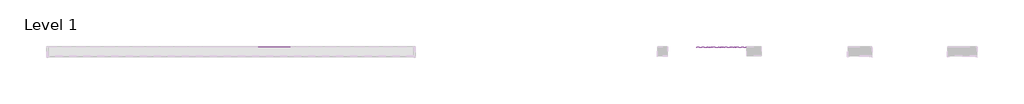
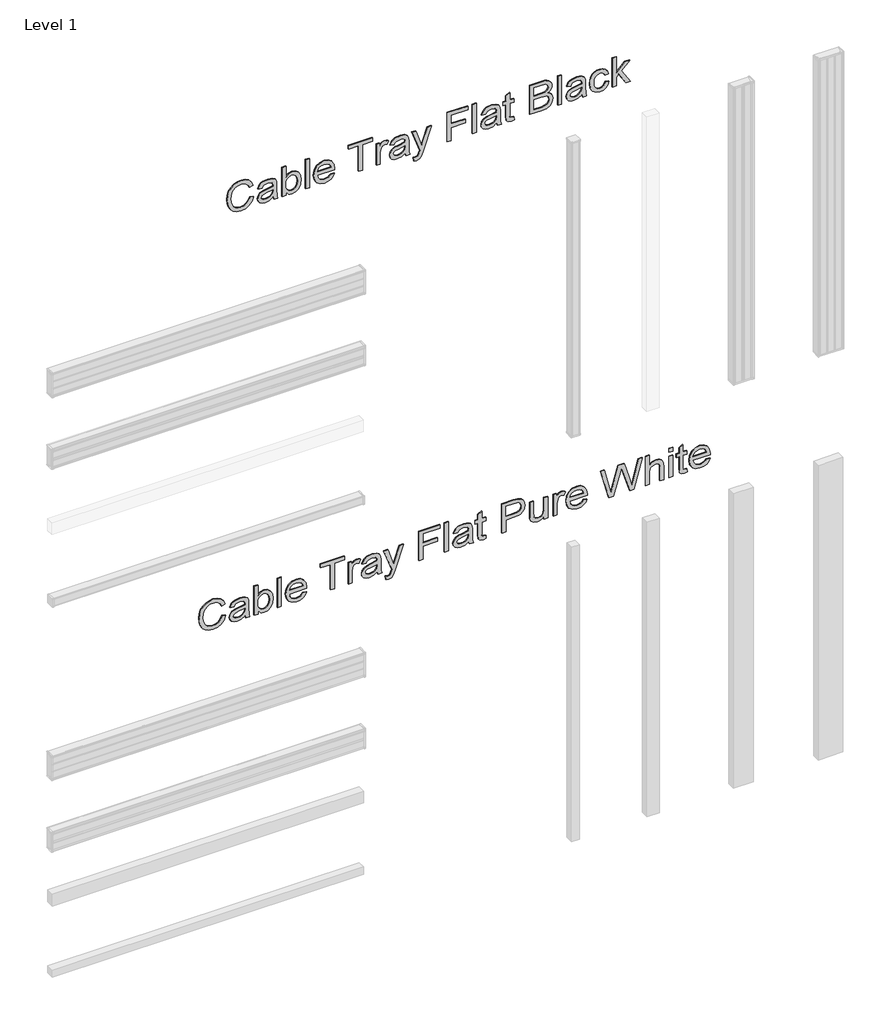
# One storey, part 2 of 2: 2 proxies.
"""IFC4 building model written with IfcOpenShell, lengths in millimetres."""

from ifc_helpers import new_model, si_unit, frame, origin, place, context, project, spatial, polyline, outline, extrude, element, save

model = new_model("IFC4")

# Units and contexts
model_context = context("Model", 3, world=origin())
ifc_project = project(units=[si_unit("LENGTHUNIT", "METRE", prefix="MILLI")], contexts=[model_context])

# Site, building, storey
site = spatial("IfcSite", under=ifc_project)
building = spatial("IfcBuilding", under=site)
storey = spatial("IfcBuildingStorey", under=building, Name="Level 1", Elevation=4000.0)

# Proxies
placement = place(None, origin())
element("IfcBuildingElementProxy", 1, Name="200mm Arial", ObjectType="200mm Arial", at=placement, inside=storey, context=model_context, shape_type="SweptSolid", body=[
    extrude(outline(polyline([(8310.4407483, -13910.5435834), (8289.3590175, -13918.5063238), (8274.1907483, -13931.4330065), (8265.0320944, -13948.5544007), (8261.9792098, -13969.1012757), (8264.2207964, -13986.7274776), (8270.945556, -14003.0676219), (8282.2015656, -14016.6974296), (8298.0369021, -14026.1926219), (8317.7003637, -14031.7635353), (8340.4407483, -14033.6205065), (8359.0104598, -14032.0519969), (8377.0272868, -14027.346468), (8392.9647868, -14018.7707469), (8405.2965175, -14005.5916603), (8413.1931521, -13988.2238719), (8415.8253637, -13967.082045), (8413.4515656, -13948.7406988), (8406.3301714, -13933.8128142), (8394.0164694, -13922.1541603), (8376.0657483, -13913.6205065), (8381.9311329, -13889.0051219), (8406.6426714, -13899.8765161), (8425.1042098, -13916.8176219), (8436.6066137, -13939.1313238), (8440.4407483, -13966.1205065), (8437.4780079, -13990.8560834), (8428.5897868, -14013.4281988), (8413.992431, -14032.4606507), (8393.9022868, -14046.5772373), (8369.1066137, -14055.3212276), (8340.3926714, -14058.2358911), (8313.1691137, -14055.6577661), (8287.7484406, -14047.9233911), (8266.1258444, -14035.2551219), (8250.2965175, -14017.8753142), (8240.5969983, -13995.2010353), (8237.3638252, -13966.6493526), (8241.6366618, -13938.5243526), (8254.4551714, -13915.1108911), (8275.4107002, -13897.2863719), (8304.0945944, -13885.9281988), (8310.4407483, -13910.5435834)])), frame((0.0, 2566.5081828, 0.0), z_axis=(0.0, 1.0, 0.0), x_axis=(0.0, 0.0, 1.0)), (0.0, 0.0, 1.0), 5.0),
    extrude(outline(polyline([(8258.9022868, -13762.8512757), (8240.4407483, -13756.6974296), (8240.4407483, -13732.082045), (8261.1378637, -13736.9858911), (8303.9022868, -13738.2358911), (8334.5272868, -13738.2358911), (8356.0657483, -13739.4378142), (8372.7724791, -13746.9858911), (8383.758056, -13763.8368526), (8388.133056, -13793.6685834), (8383.1811329, -13826.144545), (8377.1835368, -13838.5123334), (8369.0945944, -13847.5868526), (8345.0561329, -13858.2358911), (8341.9792098, -13833.6205065), (8352.2135848, -13828.7286796), (8358.7820944, -13821.7455065), (8363.5176714, -13796.8416603), (8361.7388252, -13781.0003142), (8356.4022868, -13769.6301219), (8349.2147868, -13764.5459873), (8338.2292098, -13762.8512757), (8332.7484406, -13762.9955065), (8324.2869021, -13805.6878142), (8320.5849791, -13826.9858911), (8312.508056, -13844.221468), (8298.3734406, -13856.6012757), (8278.9022868, -13861.3128142), (8262.351806, -13858.1938238), (8249.0465175, -13848.8368526), (8240.2844983, -13833.6625738), (8237.3638252, -13813.0916603), (8242.2195944, -13786.721468), (8258.9022868, -13762.8512757)]), holes=[polyline([(8308.133056, -13762.8512757), (8301.1619021, -13762.9955065), (8282.1234406, -13766.8897373), (8267.8686329, -13782.9474296), (8263.4515656, -13794.6301219), (8261.9792098, -13807.8512757), (8263.3133444, -13820.3212276), (8267.3157483, -13829.3656988), (8273.3133444, -13834.8644969), (8280.633056, -13836.6974296), (8290.1042098, -13833.332045), (8296.5945944, -13823.7406988), (8300.5849791, -13802.5628142), (8308.133056, -13762.8512757)])]), frame((0.0, 2566.5081828, 0.0), z_axis=(0.0, 1.0, 0.0), x_axis=(0.0, 0.0, 1.0)), (0.0, 0.0, 1.0), 5.0),
    extrude(outline(polyline([(8240.4407483, -13679.7743526), (8263.4695944, -13679.7743526), (8243.8902675, -13663.1517565), (8238.9954358, -13652.8662998), (8237.3638252, -13641.2647373), (8242.4239214, -13618.3260353), (8257.6042098, -13598.9330065), (8282.0513252, -13585.7178623), (8314.9119021, -13581.3128142), (8344.2628637, -13585.5676219), (8367.7003637, -13597.3224296), (8382.7724791, -13616.457045), (8388.133056, -13641.1205065), (8382.1835368, -13662.5387757), (8364.3349791, -13679.7743526), (8437.3638252, -13679.7743526), (8437.3638252, -13704.3897373), (8240.4407483, -13704.3897373), (8240.4407483, -13679.7743526)]), holes=[polyline([(8313.758056, -13679.7743526), (8335.0921906, -13676.9979103), (8350.7292098, -13668.6685834), (8360.320556, -13656.5291603), (8363.5176714, -13642.3224296), (8360.4287291, -13628.3380546), (8351.1619021, -13616.5772373), (8335.4167098, -13608.5904584), (8312.8926714, -13605.9281988), (8290.6931521, -13608.7046411), (8274.7676714, -13617.033968), (8265.1763252, -13629.1733911), (8261.9792098, -13643.3801219), (8266.3181521, -13660.1469488), (8279.3349791, -13673.0435834), (8293.2292098, -13678.0916603), (8313.758056, -13679.7743526)])]), frame((0.0, 2566.5081828, 0.0), z_axis=(0.0, 1.0, 0.0), x_axis=(0.0, 0.0, 1.0)), (0.0, 0.0, 1.0), 5.0),
    extrude(outline(polyline([(-13529.0051219, 2566.5081828), (-13553.6205065, 2566.5081828), (-13553.6205065, 2571.5081828), (-13529.0051219, 2571.5081828), (-13529.0051219, 2566.5081828)])), frame((0.0, 0.0, 8240.4407483), z_axis=(0.0, 0.0, 1.0), x_axis=(1.0, 0.0, 0.0)), (0.0, 0.0, 1.0), 196.9230769),
    extrude(outline(polyline([(8283.5176714, -13390.832045), (8273.7941137, -13397.7310834), (8267.1234406, -13406.6974296), (8261.9792098, -13430.832045), (8264.7556521, -13448.25392), (8273.0849791, -13462.5387757), (8286.6306521, -13472.4366123), (8305.0561329, -13476.6974296), (8305.0561329, -13366.0724296), (8311.6907483, -13365.9281988), (8343.9623829, -13370.59767), (8368.0849791, -13384.6060834), (8383.1210368, -13405.9702661), (8388.133056, -13432.707045), (8383.1090175, -13460.3031988), (8368.0369021, -13482.2262757), (8343.8662291, -13496.5411796), (8311.5465175, -13501.3128142), (8280.2784887, -13496.5892565), (8256.8590175, -13482.4185834), (8242.2376233, -13460.1950257), (8237.3638252, -13431.3128142), (8240.1883444, -13408.0135353), (8248.6619021, -13389.269545), (8262.2556521, -13375.393343), (8280.4407483, -13366.6974296), (8283.5176714, -13390.832045)]), holes=[polyline([(8329.6715175, -13476.6974296), (8343.5477194, -13472.6529584), (8354.3109406, -13463.1156988), (8361.2159887, -13449.3957469), (8363.5176714, -13432.8031988), (8360.633056, -13414.7503142), (8351.9792098, -13400.3993526), (8342.6763252, -13393.8729103), (8329.6715175, -13390.5435834), (8329.6715175, -13476.6974296)])]), frame((0.0, 2566.5081828, 0.0), z_axis=(0.0, 1.0, 0.0), x_axis=(0.0, 0.0, 1.0)), (0.0, 0.0, 1.0), 5.0),
    extrude(outline(polyline([(8240.4407483, -13212.082045), (8240.4407483, -13187.4666603), (8412.7484406, -13187.4666603), (8412.7484406, -13122.8512757), (8437.3638252, -13122.8512757), (8437.3638252, -13276.6974296), (8412.7484406, -13276.6974296), (8412.7484406, -13212.082045), (8240.4407483, -13212.082045)])), frame((0.0, 2566.5081828, 0.0), z_axis=(0.0, 1.0, 0.0), x_axis=(0.0, 0.0, 1.0)), (0.0, 0.0, 1.0), 5.0),
    extrude(outline(polyline([(8240.4407483, -13098.2358911), (8240.4407483, -13073.6205065), (8316.4503637, -13073.6205065), (8345.2003637, -13069.6301219), (8358.6619021, -13060.7599296), (8363.5176714, -13046.8416603), (8358.4695944, -13029.533968), (8380.5369021, -13021.3128142), (8386.2340175, -13033.7647373), (8388.133056, -13046.0243526), (8383.3734406, -13061.408968), (8363.6619021, -13076.6974296), (8385.0561329, -13076.6974296), (8385.0561329, -13098.2358911), (8240.4407483, -13098.2358911)])), frame((0.0, 2566.5081828, 0.0), z_axis=(0.0, 1.0, 0.0), x_axis=(0.0, 0.0, 1.0)), (0.0, 0.0, 1.0), 5.0),
    extrude(outline(polyline([(8258.9022868, -12913.6205065), (8240.4407483, -12907.4666603), (8240.4407483, -12882.8512757), (8261.1378637, -12887.7551219), (8303.9022868, -12889.0051219), (8334.5272868, -12889.0051219), (8356.0657483, -12890.207045), (8372.7724791, -12897.7551219), (8383.758056, -12914.6060834), (8388.133056, -12944.4378142), (8383.1811329, -12976.9137757), (8377.1835368, -12989.2815642), (8369.0945944, -12998.3560834), (8345.0561329, -13009.0051219), (8341.9792098, -12984.3897373), (8352.2135848, -12979.4979103), (8358.7820944, -12972.5147373), (8363.5176714, -12947.6108911), (8361.7388252, -12931.769545), (8356.4022868, -12920.3993526), (8349.2147868, -12915.315218), (8338.2292098, -12913.6205065), (8332.7484406, -12913.7647373), (8324.2869021, -12956.457045), (8320.5849791, -12977.7551219), (8312.508056, -12994.9906988), (8298.3734406, -13007.3705065), (8278.9022868, -13012.082045), (8262.351806, -13008.9630546), (8249.0465175, -12999.6060834), (8240.2844983, -12984.4318046), (8237.3638252, -12963.8608911), (8242.2195944, -12937.4906988), (8258.9022868, -12913.6205065)]), holes=[polyline([(8308.133056, -12913.6205065), (8301.1619021, -12913.7647373), (8282.1234406, -12917.658968), (8267.8686329, -12933.7166603), (8263.4515656, -12945.3993526), (8261.9792098, -12958.6205065), (8263.3133444, -12971.0904584), (8267.3157483, -12980.1349296), (8273.3133444, -12985.6337276), (8280.633056, -12987.4666603), (8290.1042098, -12984.1012757), (8296.5945944, -12974.5099296), (8300.5849791, -12953.332045), (8308.133056, -12913.6205065)])]), frame((0.0, 2566.5081828, 0.0), z_axis=(0.0, 1.0, 0.0), x_axis=(0.0, 0.0, 1.0)), (0.0, 0.0, 1.0), 5.0),
    extrude(outline(polyline([(8185.0561329, -12855.158968), (8181.9792098, -12840.1108911), (8187.508056, -12820.9281988), (8204.8638252, -12806.6493526), (8236.9792098, -12793.5724296), (8385.0561329, -12743.2358911), (8385.0561329, -12769.0051219), (8301.0176714, -12797.5147373), (8272.6522868, -12807.1781988), (8304.7676714, -12816.8416603), (8385.0561329, -12844.582045), (8385.0561329, -12870.5435834), (8240.9695944, -12818.2358911), (8235.008056, -12820.158968), (8216.883056, -12826.8897373), (8209.3109406, -12834.0531988), (8206.5945944, -12845.7358911), (8208.758056, -12858.2358911), (8185.0561329, -12855.158968)])), frame((0.0, 2566.5081828, 0.0), z_axis=(0.0, 1.0, 0.0), x_axis=(0.0, 0.0, 1.0)), (0.0, 0.0, 1.0), 5.0),
    extrude(outline(polyline([(8240.4407483, -12642.8512757), (8240.4407483, -12618.2358911), (8329.6715175, -12618.2358911), (8329.6715175, -12525.9281988), (8354.2869021, -12525.9281988), (8354.2869021, -12618.2358911), (8412.7484406, -12618.2358911), (8412.7484406, -12510.5435834), (8437.3638252, -12510.5435834), (8437.3638252, -12642.8512757), (8240.4407483, -12642.8512757)])), frame((0.0, 2566.5081828, 0.0), z_axis=(0.0, 1.0, 0.0), x_axis=(0.0, 0.0, 1.0)), (0.0, 0.0, 1.0), 5.0),
    extrude(outline(polyline([(-12455.158968, 2566.5081828), (-12479.7743526, 2566.5081828), (-12479.7743526, 2571.5081828), (-12455.158968, 2571.5081828), (-12455.158968, 2566.5081828)])), frame((0.0, 0.0, 8240.4407483), z_axis=(0.0, 0.0, 1.0), x_axis=(1.0, 0.0, 0.0)), (0.0, 0.0, 1.0), 196.9230769),
    extrude(outline(polyline([(8258.9022868, -12325.9281988), (8240.4407483, -12319.7743526), (8240.4407483, -12295.158968), (8261.1378637, -12300.0628142), (8303.9022868, -12301.3128142), (8334.5272868, -12301.3128142), (8356.0657483, -12302.5147373), (8372.7724791, -12310.0628142), (8383.758056, -12326.9137757), (8388.133056, -12356.7455065), (8383.1811329, -12389.221468), (8377.1835368, -12401.5892565), (8369.0945944, -12410.6637757), (8345.0561329, -12421.3128142), (8341.9792098, -12396.6974296), (8352.2135848, -12391.8056026), (8358.7820944, -12384.8224296), (8363.5176714, -12359.9185834), (8361.7388252, -12344.0772373), (8356.4022868, -12332.707045), (8349.2147868, -12327.6229103), (8338.2292098, -12325.9281988), (8332.7484406, -12326.0724296), (8324.2869021, -12368.7647373), (8320.5849791, -12390.0628142), (8312.508056, -12407.2983911), (8298.3734406, -12419.6781988), (8278.9022868, -12424.3897373), (8262.351806, -12421.2707469), (8249.0465175, -12411.9137757), (8240.2844983, -12396.7394969), (8237.3638252, -12376.1685834), (8242.2195944, -12349.7983911), (8258.9022868, -12325.9281988)]), holes=[polyline([(8308.133056, -12325.9281988), (8301.1619021, -12326.0724296), (8282.1234406, -12329.9666603), (8267.8686329, -12346.0243526), (8263.4515656, -12357.707045), (8261.9792098, -12370.9281988), (8263.3133444, -12383.3981507), (8267.3157483, -12392.4426219), (8273.3133444, -12397.94142), (8280.633056, -12399.7743526), (8290.1042098, -12396.408968), (8296.5945944, -12386.8176219), (8300.5849791, -12365.6397373), (8308.133056, -12325.9281988)])]), frame((0.0, 2566.5081828, 0.0), z_axis=(0.0, 1.0, 0.0), x_axis=(0.0, 0.0, 1.0)), (0.0, 0.0, 1.0), 5.0),
    extrude(outline(polyline([(8260.9695944, -12215.158968), (8261.9792098, -12225.8801219), (8263.6378637, -12234.269545), (8268.133056, -12238.4762757), (8280.8253637, -12239.7743526), (8360.4407483, -12239.7743526), (8360.4407483, -12215.158968), (8385.0561329, -12215.158968), (8385.0561329, -12239.7743526), (8434.6715175, -12239.7743526), (8420.2003637, -12264.3897373), (8385.0561329, -12264.3897373), (8385.0561329, -12282.8512757), (8360.4407483, -12282.8512757), (8360.4407483, -12264.3897373), (8280.1042098, -12264.3897373), (8252.1715175, -12261.408968), (8241.4503637, -12251.1205065), (8237.3638252, -12230.4955065), (8239.7195944, -12212.082045), (8260.9695944, -12215.158968)])), frame((0.0, 2566.5081828, 0.0), z_axis=(0.0, 1.0, 0.0), x_axis=(0.0, 0.0, 1.0)), (0.0, 0.0, 1.0), 5.0),
    extrude(outline(polyline([(8240.4407483, -12110.5435834), (8240.4407483, -12035.9762757), (8243.8301714, -12004.4137757), (8253.8301714, -11982.9955065), (8272.6763252, -11968.644545), (8299.1426714, -11962.8512757), (8315.6210368, -11964.97267), (8329.7676714, -11971.3368526), (8340.8494021, -11981.643343), (8348.133056, -11995.5916603), (8355.8073348, -11983.9149776), (8365.5609406, -11975.6156988), (8376.7087771, -11970.6577661), (8388.5657483, -11969.0051219), (8401.4503637, -11970.9702661), (8413.758056, -11976.8656988), (8424.2207964, -11986.2286796), (8431.570556, -11998.596468), (8435.9155079, -12014.7322853), (8437.3638252, -12035.3993526), (8437.3638252, -12110.5435834), (8240.4407483, -12110.5435834)]), holes=[polyline([(8357.3638252, -12085.9281988), (8412.7484406, -12085.9281988), (8412.7484406, -12044.3897373), (8410.1763252, -12012.7551219), (8400.6811329, -11998.5724296), (8384.6234406, -11993.6205065), (8368.5897868, -11998.9330065), (8359.4792098, -12014.7262757), (8357.3638252, -12040.9762757), (8357.3638252, -12085.9281988)]), polyline([(8265.0561329, -12085.9281988), (8332.7484406, -12085.9281988), (8332.7484406, -12037.8512757), (8329.4551714, -12007.4426219), (8324.9539694, -11998.3500738), (8318.0369021, -11992.1781988), (8298.9022868, -11987.4666603), (8282.3157483, -11991.4810834), (8271.3782483, -12001.721468), (8266.0176714, -12017.1781988), (8265.0561329, -12035.4474296), (8265.0561329, -12085.9281988)])]), frame((0.0, 2566.5081828, 0.0), z_axis=(0.0, 1.0, 0.0), x_axis=(0.0, 0.0, 1.0)), (0.0, 0.0, 1.0), 5.0),
    extrude(outline(polyline([(-11907.4666603, 2566.5081828), (-11932.082045, 2566.5081828), (-11932.082045, 2571.5081828), (-11907.4666603, 2571.5081828), (-11907.4666603, 2566.5081828)])), frame((0.0, 0.0, 8240.4407483), z_axis=(0.0, 0.0, 1.0), x_axis=(1.0, 0.0, 0.0)), (0.0, 0.0, 1.0), 196.9230769),
    extrude(outline(polyline([(8258.9022868, -11778.2358911), (8240.4407483, -11772.082045), (8240.4407483, -11747.4666603), (8261.1378637, -11752.3705065), (8303.9022868, -11753.6205065), (8334.5272868, -11753.6205065), (8356.0657483, -11754.8224296), (8372.7724791, -11762.3705065), (8383.758056, -11779.221468), (8388.133056, -11809.0531988), (8383.1811329, -11841.5291603), (8377.1835368, -11853.8969488), (8369.0945944, -11862.971468), (8345.0561329, -11873.6205065), (8341.9792098, -11849.0051219), (8352.2135848, -11844.113295), (8358.7820944, -11837.1301219), (8363.5176714, -11812.2262757), (8361.7388252, -11796.3849296), (8356.4022868, -11785.0147373), (8349.2147868, -11779.9306026), (8338.2292098, -11778.2358911), (8332.7484406, -11778.3801219), (8324.2869021, -11821.0724296), (8320.5849791, -11842.3705065), (8312.508056, -11859.6060834), (8298.3734406, -11871.9858911), (8278.9022868, -11876.6974296), (8262.351806, -11873.5784392), (8249.0465175, -11864.221468), (8240.2844983, -11849.0471892), (8237.3638252, -11828.4762757), (8242.2195944, -11802.1060834), (8258.9022868, -11778.2358911)]), holes=[polyline([(8308.133056, -11778.2358911), (8301.1619021, -11778.3801219), (8282.1234406, -11782.2743526), (8267.8686329, -11798.332045), (8263.4515656, -11810.0147373), (8261.9792098, -11823.2358911), (8263.3133444, -11835.705843), (8267.3157483, -11844.7503142), (8273.3133444, -11850.2491123), (8280.633056, -11852.082045), (8290.1042098, -11848.7166603), (8296.5945944, -11839.1253142), (8300.5849791, -11817.9474296), (8308.133056, -11778.2358911)])]), frame((0.0, 2566.5081828, 0.0), z_axis=(0.0, 1.0, 0.0), x_axis=(0.0, 0.0, 1.0)), (0.0, 0.0, 1.0), 5.0),
    extrude(outline(polyline([(8292.7484406, -11627.4666603), (8279.1066137, -11631.6673815), (8269.5272868, -11639.269545), (8263.8662291, -11649.7202661), (8261.9792098, -11662.4666603), (8265.0020464, -11678.1697853), (8274.070556, -11690.5676219), (8289.8217579, -11698.6265161), (8312.8926714, -11701.3128142), (8335.6570944, -11698.56642), (8351.3542098, -11690.3272373), (8360.476806, -11677.7010353), (8363.5176714, -11661.7935834), (8361.9732002, -11651.018343), (8357.3397868, -11641.9618526), (8349.6414694, -11635.0087276), (8338.9022868, -11630.5435834), (8341.9792098, -11605.9281988), (8361.570556, -11612.62892), (8376.1138252, -11624.5580065), (8385.1282483, -11641.1866123), (8388.133056, -11661.9858911), (8385.945556, -11679.3957469), (8379.383056, -11695.471468), (8368.4395464, -11708.908968), (8353.1090175, -11718.4041603), (8334.1246425, -11724.0471892), (8312.2195944, -11725.9281988), (8280.2664694, -11721.5231507), (8256.7147868, -11708.3080065), (8242.2015656, -11687.8332469), (8237.3638252, -11661.6493526), (8240.8313733, -11640.3272373), (8251.2340175, -11622.6108911), (8267.7784887, -11609.7142565), (8289.6715175, -11602.8512757), (8292.7484406, -11627.4666603)])), frame((0.0, 2566.5081828, 0.0), z_axis=(0.0, 1.0, 0.0), x_axis=(0.0, 0.0, 1.0)), (0.0, 0.0, 1.0), 5.0),
    extrude(outline(polyline([(8240.4407483, -11581.3128142), (8240.4407483, -11556.6974296), (8298.5176714, -11556.6974296), (8313.758056, -11540.9762757), (8240.4407483, -11493.1397373), (8240.4407483, -11464.3897373), (8330.8734406, -11523.332045), (8385.0561329, -11467.4666603), (8385.0561329, -11501.5051219), (8331.5465175, -11556.6974296), (8437.3638252, -11556.6974296), (8437.3638252, -11581.3128142), (8240.4407483, -11581.3128142)])), frame((0.0, 2566.5081828, 0.0), z_axis=(0.0, 1.0, 0.0), x_axis=(0.0, 0.0, 1.0)), (0.0, 0.0, 1.0), 5.0),
])
element("IfcBuildingElementProxy", 2, Name="200mm Arial", ObjectType="200mm Arial", at=placement, inside=storey, context=model_context, shape_type="SweptSolid", body=[
    extrude(outline(polyline([(5530.4407483, -14090.5435834), (5509.3590175, -14098.5063238), (5494.1907483, -14111.4330065), (5485.0320944, -14128.5544007), (5481.9792098, -14149.1012757), (5484.2207964, -14166.7274776), (5490.945556, -14183.0676219), (5502.2015656, -14196.6974296), (5518.0369021, -14206.1926219), (5537.7003637, -14211.7635353), (5560.4407483, -14213.6205065), (5579.0104598, -14212.0519969), (5597.0272868, -14207.346468), (5612.9647868, -14198.7707469), (5625.2965175, -14185.5916603), (5633.1931521, -14168.2238719), (5635.8253637, -14147.082045), (5633.4515656, -14128.7406988), (5626.3301714, -14113.8128142), (5614.0164694, -14102.1541603), (5596.0657483, -14093.6205065), (5601.9311329, -14069.0051219), (5626.6426714, -14079.8765161), (5645.1042098, -14096.8176219), (5656.6066137, -14119.1313238), (5660.4407483, -14146.1205065), (5657.4780079, -14170.8560834), (5648.5897868, -14193.4281988), (5633.992431, -14212.4606507), (5613.9022868, -14226.5772373), (5589.1066137, -14235.3212276), (5560.3926714, -14238.2358911), (5533.1691137, -14235.6577661), (5507.7484406, -14227.9233911), (5486.1258444, -14215.2551219), (5470.2965175, -14197.8753142), (5460.5969983, -14175.2010353), (5457.3638252, -14146.6493526), (5461.6366618, -14118.5243526), (5474.4551714, -14095.1108911), (5495.4107002, -14077.2863719), (5524.0945944, -14065.9281988), (5530.4407483, -14090.5435834)])), frame((0.0, 2566.5081828, 0.0), z_axis=(0.0, 1.0, 0.0), x_axis=(0.0, 0.0, 1.0)), (0.0, 0.0, 1.0), 5.0),
    extrude(outline(polyline([(5478.9022868, -13942.8512757), (5460.4407483, -13936.6974296), (5460.4407483, -13912.082045), (5481.1378637, -13916.9858911), (5523.9022868, -13918.2358911), (5554.5272868, -13918.2358911), (5576.0657483, -13919.4378142), (5592.7724791, -13926.9858911), (5603.758056, -13943.8368526), (5608.133056, -13973.6685834), (5603.1811329, -14006.144545), (5597.1835368, -14018.5123334), (5589.0945944, -14027.5868526), (5565.0561329, -14038.2358911), (5561.9792098, -14013.6205065), (5572.2135848, -14008.7286796), (5578.7820944, -14001.7455065), (5583.5176714, -13976.8416603), (5581.7388252, -13961.0003142), (5576.4022868, -13949.6301219), (5569.2147868, -13944.5459873), (5558.2292098, -13942.8512757), (5552.7484406, -13942.9955065), (5544.2869021, -13985.6878142), (5540.5849791, -14006.9858911), (5532.508056, -14024.221468), (5518.3734406, -14036.6012757), (5498.9022868, -14041.3128142), (5482.351806, -14038.1938238), (5469.0465175, -14028.8368526), (5460.2844983, -14013.6625738), (5457.3638252, -13993.0916603), (5462.2195944, -13966.721468), (5478.9022868, -13942.8512757)]), holes=[polyline([(5528.133056, -13942.8512757), (5521.1619021, -13942.9955065), (5502.1234406, -13946.8897373), (5487.8686329, -13962.9474296), (5483.4515656, -13974.6301219), (5481.9792098, -13987.8512757), (5483.3133444, -14000.3212276), (5487.3157483, -14009.3656988), (5493.3133444, -14014.8644969), (5500.633056, -14016.6974296), (5510.1042098, -14013.332045), (5516.5945944, -14003.7406988), (5520.5849791, -13982.5628142), (5528.133056, -13942.8512757)])]), frame((0.0, 2566.5081828, 0.0), z_axis=(0.0, 1.0, 0.0), x_axis=(0.0, 0.0, 1.0)), (0.0, 0.0, 1.0), 5.0),
    extrude(outline(polyline([(5460.4407483, -13859.7743526), (5483.4695944, -13859.7743526), (5463.8902675, -13843.1517565), (5458.9954358, -13832.8662998), (5457.3638252, -13821.2647373), (5462.4239214, -13798.3260353), (5477.6042098, -13778.9330065), (5502.0513252, -13765.7178623), (5534.9119021, -13761.3128142), (5564.2628637, -13765.5676219), (5587.7003637, -13777.3224296), (5602.7724791, -13796.457045), (5608.133056, -13821.1205065), (5602.1835368, -13842.5387757), (5584.3349791, -13859.7743526), (5657.3638252, -13859.7743526), (5657.3638252, -13884.3897373), (5460.4407483, -13884.3897373), (5460.4407483, -13859.7743526)]), holes=[polyline([(5533.758056, -13859.7743526), (5555.0921906, -13856.9979103), (5570.7292098, -13848.6685834), (5580.320556, -13836.5291603), (5583.5176714, -13822.3224296), (5580.4287291, -13808.3380546), (5571.1619021, -13796.5772373), (5555.4167098, -13788.5904584), (5532.8926714, -13785.9281988), (5510.6931521, -13788.7046411), (5494.7676714, -13797.033968), (5485.1763252, -13809.1733911), (5481.9792098, -13823.3801219), (5486.3181521, -13840.1469488), (5499.3349791, -13853.0435834), (5513.2292098, -13858.0916603), (5533.758056, -13859.7743526)])]), frame((0.0, 2566.5081828, 0.0), z_axis=(0.0, 1.0, 0.0), x_axis=(0.0, 0.0, 1.0)), (0.0, 0.0, 1.0), 5.0),
    extrude(outline(polyline([(-13709.0051219, 2566.5081828), (-13733.6205065, 2566.5081828), (-13733.6205065, 2571.5081828), (-13709.0051219, 2571.5081828), (-13709.0051219, 2566.5081828)])), frame((0.0, 0.0, 5460.4407483), z_axis=(0.0, 0.0, 1.0), x_axis=(1.0, 0.0, 0.0)), (0.0, 0.0, 1.0), 196.9230769),
    extrude(outline(polyline([(5503.5176714, -13570.832045), (5493.7941137, -13577.7310834), (5487.1234406, -13586.6974296), (5481.9792098, -13610.832045), (5484.7556521, -13628.25392), (5493.0849791, -13642.5387757), (5506.6306521, -13652.4366123), (5525.0561329, -13656.6974296), (5525.0561329, -13546.0724296), (5531.6907483, -13545.9281988), (5563.9623829, -13550.59767), (5588.0849791, -13564.6060834), (5603.1210368, -13585.9702661), (5608.133056, -13612.707045), (5603.1090175, -13640.3031988), (5588.0369021, -13662.2262757), (5563.8662291, -13676.5411796), (5531.5465175, -13681.3128142), (5500.2784887, -13676.5892565), (5476.8590175, -13662.4185834), (5462.2376233, -13640.1950257), (5457.3638252, -13611.3128142), (5460.1883444, -13588.0135353), (5468.6619021, -13569.269545), (5482.2556521, -13555.393343), (5500.4407483, -13546.6974296), (5503.5176714, -13570.832045)]), holes=[polyline([(5549.6715175, -13656.6974296), (5563.5477194, -13652.6529584), (5574.3109406, -13643.1156988), (5581.2159887, -13629.3957469), (5583.5176714, -13612.8031988), (5580.633056, -13594.7503142), (5571.9792098, -13580.3993526), (5562.6763252, -13573.8729103), (5549.6715175, -13570.5435834), (5549.6715175, -13656.6974296)])]), frame((0.0, 2566.5081828, 0.0), z_axis=(0.0, 1.0, 0.0), x_axis=(0.0, 0.0, 1.0)), (0.0, 0.0, 1.0), 5.0),
    extrude(outline(polyline([(5460.4407483, -13392.082045), (5460.4407483, -13367.4666603), (5632.7484406, -13367.4666603), (5632.7484406, -13302.8512757), (5657.3638252, -13302.8512757), (5657.3638252, -13456.6974296), (5632.7484406, -13456.6974296), (5632.7484406, -13392.082045), (5460.4407483, -13392.082045)])), frame((0.0, 2566.5081828, 0.0), z_axis=(0.0, 1.0, 0.0), x_axis=(0.0, 0.0, 1.0)), (0.0, 0.0, 1.0), 5.0),
    extrude(outline(polyline([(5460.4407483, -13278.2358911), (5460.4407483, -13253.6205065), (5536.4503637, -13253.6205065), (5565.2003637, -13249.6301219), (5578.6619021, -13240.7599296), (5583.5176714, -13226.8416603), (5578.4695944, -13209.533968), (5600.5369021, -13201.3128142), (5606.2340175, -13213.7647373), (5608.133056, -13226.0243526), (5603.3734406, -13241.408968), (5583.6619021, -13256.6974296), (5605.0561329, -13256.6974296), (5605.0561329, -13278.2358911), (5460.4407483, -13278.2358911)])), frame((0.0, 2566.5081828, 0.0), z_axis=(0.0, 1.0, 0.0), x_axis=(0.0, 0.0, 1.0)), (0.0, 0.0, 1.0), 5.0),
    extrude(outline(polyline([(5478.9022868, -13093.6205065), (5460.4407483, -13087.4666603), (5460.4407483, -13062.8512757), (5481.1378637, -13067.7551219), (5523.9022868, -13069.0051219), (5554.5272868, -13069.0051219), (5576.0657483, -13070.207045), (5592.7724791, -13077.7551219), (5603.758056, -13094.6060834), (5608.133056, -13124.4378142), (5603.1811329, -13156.9137757), (5597.1835368, -13169.2815642), (5589.0945944, -13178.3560834), (5565.0561329, -13189.0051219), (5561.9792098, -13164.3897373), (5572.2135848, -13159.4979103), (5578.7820944, -13152.5147373), (5583.5176714, -13127.6108911), (5581.7388252, -13111.769545), (5576.4022868, -13100.3993526), (5569.2147868, -13095.315218), (5558.2292098, -13093.6205065), (5552.7484406, -13093.7647373), (5544.2869021, -13136.457045), (5540.5849791, -13157.7551219), (5532.508056, -13174.9906988), (5518.3734406, -13187.3705065), (5498.9022868, -13192.082045), (5482.351806, -13188.9630546), (5469.0465175, -13179.6060834), (5460.2844983, -13164.4318046), (5457.3638252, -13143.8608911), (5462.2195944, -13117.4906988), (5478.9022868, -13093.6205065)]), holes=[polyline([(5528.133056, -13093.6205065), (5521.1619021, -13093.7647373), (5502.1234406, -13097.658968), (5487.8686329, -13113.7166603), (5483.4515656, -13125.3993526), (5481.9792098, -13138.6205065), (5483.3133444, -13151.0904584), (5487.3157483, -13160.1349296), (5493.3133444, -13165.6337276), (5500.633056, -13167.4666603), (5510.1042098, -13164.1012757), (5516.5945944, -13154.5099296), (5520.5849791, -13133.332045), (5528.133056, -13093.6205065)])]), frame((0.0, 2566.5081828, 0.0), z_axis=(0.0, 1.0, 0.0), x_axis=(0.0, 0.0, 1.0)), (0.0, 0.0, 1.0), 5.0),
    extrude(outline(polyline([(5405.0561329, -13035.158968), (5401.9792098, -13020.1108911), (5407.508056, -13000.9281988), (5424.8638252, -12986.6493526), (5456.9792098, -12973.5724296), (5605.0561329, -12923.2358911), (5605.0561329, -12949.0051219), (5521.0176714, -12977.5147373), (5492.6522868, -12987.1781988), (5524.7676714, -12996.8416603), (5605.0561329, -13024.582045), (5605.0561329, -13050.5435834), (5460.9695944, -12998.2358911), (5455.008056, -13000.158968), (5436.883056, -13006.8897373), (5429.3109406, -13014.0531988), (5426.5945944, -13025.7358911), (5428.758056, -13038.2358911), (5405.0561329, -13035.158968)])), frame((0.0, 2566.5081828, 0.0), z_axis=(0.0, 1.0, 0.0), x_axis=(0.0, 0.0, 1.0)), (0.0, 0.0, 1.0), 5.0),
    extrude(outline(polyline([(5460.4407483, -12822.8512757), (5460.4407483, -12798.2358911), (5549.6715175, -12798.2358911), (5549.6715175, -12705.9281988), (5574.2869021, -12705.9281988), (5574.2869021, -12798.2358911), (5632.7484406, -12798.2358911), (5632.7484406, -12690.5435834), (5657.3638252, -12690.5435834), (5657.3638252, -12822.8512757), (5460.4407483, -12822.8512757)])), frame((0.0, 2566.5081828, 0.0), z_axis=(0.0, 1.0, 0.0), x_axis=(0.0, 0.0, 1.0)), (0.0, 0.0, 1.0), 5.0),
    extrude(outline(polyline([(-12635.158968, 2566.5081828), (-12659.7743526, 2566.5081828), (-12659.7743526, 2571.5081828), (-12635.158968, 2571.5081828), (-12635.158968, 2566.5081828)])), frame((0.0, 0.0, 5460.4407483), z_axis=(0.0, 0.0, 1.0), x_axis=(1.0, 0.0, 0.0)), (0.0, 0.0, 1.0), 196.9230769),
    extrude(outline(polyline([(5478.9022868, -12505.9281988), (5460.4407483, -12499.7743526), (5460.4407483, -12475.158968), (5481.1378637, -12480.0628142), (5523.9022868, -12481.3128142), (5554.5272868, -12481.3128142), (5576.0657483, -12482.5147373), (5592.7724791, -12490.0628142), (5603.758056, -12506.9137757), (5608.133056, -12536.7455065), (5603.1811329, -12569.221468), (5597.1835368, -12581.5892565), (5589.0945944, -12590.6637757), (5565.0561329, -12601.3128142), (5561.9792098, -12576.6974296), (5572.2135848, -12571.8056026), (5578.7820944, -12564.8224296), (5583.5176714, -12539.9185834), (5581.7388252, -12524.0772373), (5576.4022868, -12512.707045), (5569.2147868, -12507.6229103), (5558.2292098, -12505.9281988), (5552.7484406, -12506.0724296), (5544.2869021, -12548.7647373), (5540.5849791, -12570.0628142), (5532.508056, -12587.2983911), (5518.3734406, -12599.6781988), (5498.9022868, -12604.3897373), (5482.351806, -12601.2707469), (5469.0465175, -12591.9137757), (5460.2844983, -12576.7394969), (5457.3638252, -12556.1685834), (5462.2195944, -12529.7983911), (5478.9022868, -12505.9281988)]), holes=[polyline([(5528.133056, -12505.9281988), (5521.1619021, -12506.0724296), (5502.1234406, -12509.9666603), (5487.8686329, -12526.0243526), (5483.4515656, -12537.707045), (5481.9792098, -12550.9281988), (5483.3133444, -12563.3981507), (5487.3157483, -12572.4426219), (5493.3133444, -12577.94142), (5500.633056, -12579.7743526), (5510.1042098, -12576.408968), (5516.5945944, -12566.8176219), (5520.5849791, -12545.6397373), (5528.133056, -12505.9281988)])]), frame((0.0, 2566.5081828, 0.0), z_axis=(0.0, 1.0, 0.0), x_axis=(0.0, 0.0, 1.0)), (0.0, 0.0, 1.0), 5.0),
    extrude(outline(polyline([(5480.9695944, -12395.158968), (5481.9792098, -12405.8801219), (5483.6378637, -12414.269545), (5488.133056, -12418.4762757), (5500.8253637, -12419.7743526), (5580.4407483, -12419.7743526), (5580.4407483, -12395.158968), (5605.0561329, -12395.158968), (5605.0561329, -12419.7743526), (5654.6715175, -12419.7743526), (5640.2003637, -12444.3897373), (5605.0561329, -12444.3897373), (5605.0561329, -12462.8512757), (5580.4407483, -12462.8512757), (5580.4407483, -12444.3897373), (5500.1042098, -12444.3897373), (5472.1715175, -12441.408968), (5461.4503637, -12431.1205065), (5457.3638252, -12410.4955065), (5459.7195944, -12392.082045), (5480.9695944, -12395.158968)])), frame((0.0, 2566.5081828, 0.0), z_axis=(0.0, 1.0, 0.0), x_axis=(0.0, 0.0, 1.0)), (0.0, 0.0, 1.0), 5.0),
    extrude(outline(polyline([(5460.4407483, -12290.5435834), (5460.4407483, -12265.9281988), (5540.4407483, -12265.9281988), (5540.4407483, -12215.8801219), (5544.7917098, -12180.91017), (5550.2304118, -12168.2073454), (5557.8445944, -12158.6926219), (5577.1835368, -12146.8116123), (5600.3926714, -12142.8512757), (5627.2436329, -12148.7166603), (5638.1210368, -12155.5255546), (5646.2820944, -12164.221468), (5655.4888252, -12188.1397373), (5657.3638252, -12217.5628142), (5657.3638252, -12290.5435834), (5460.4407483, -12290.5435834)]), holes=[polyline([(5565.0561329, -12265.9281988), (5632.7484406, -12265.9281988), (5632.7484406, -12215.0147373), (5631.0657483, -12190.3993526), (5626.9311329, -12181.1024776), (5619.9119021, -12173.7887757), (5610.5849791, -12169.0471892), (5599.5272868, -12167.4666603), (5584.9719983, -12170.1469488), (5574.0945944, -12178.1878142), (5567.3157483, -12192.6108911), (5565.0561329, -12214.4378142), (5565.0561329, -12265.9281988)])]), frame((0.0, 2566.5081828, 0.0), z_axis=(0.0, 1.0, 0.0), x_axis=(0.0, 0.0, 1.0)), (0.0, 0.0, 1.0), 5.0),
    extrude(outline(polyline([(5460.4407483, -12019.7743526), (5460.4407483, -11995.158968), (5605.0561329, -11995.158968), (5605.0561329, -12019.7743526), (5529.8157483, -12019.7743526), (5502.3878637, -12023.7647373), (5493.9323348, -12029.1553623), (5487.4599791, -12037.346468), (5481.9792098, -12057.8993526), (5487.3397868, -12076.2406988), (5493.7039694, -12082.3885353), (5502.0753637, -12085.9762757), (5527.1715175, -12087.4666603), (5605.0561329, -12087.4666603), (5605.0561329, -12112.082045), (5515.5849791, -12112.082045), (5492.7003637, -12110.6397373), (5474.5753637, -12103.3080065), (5462.2676714, -12087.346468), (5457.3638252, -12064.1974296), (5459.1096185, -12050.8921411), (5464.3469983, -12039.0531988), (5473.0759646, -12028.6806026), (5485.2965175, -12019.7743526), (5460.4407483, -12019.7743526)])), frame((0.0, 2566.5081828, 0.0), z_axis=(0.0, 1.0, 0.0), x_axis=(0.0, 0.0, 1.0)), (0.0, 0.0, 1.0), 5.0),
    extrude(outline(polyline([(5460.4407483, -11961.3128142), (5460.4407483, -11936.6974296), (5536.4503637, -11936.6974296), (5565.2003637, -11932.707045), (5578.6619021, -11923.8368526), (5583.5176714, -11909.9185834), (5578.4695944, -11892.6108911), (5600.5369021, -11884.3897373), (5606.2340175, -11896.8416603), (5608.133056, -11909.1012757), (5603.3734406, -11924.4858911), (5583.6619021, -11939.7743526), (5605.0561329, -11939.7743526), (5605.0561329, -11961.3128142), (5460.4407483, -11961.3128142)])), frame((0.0, 2566.5081828, 0.0), z_axis=(0.0, 1.0, 0.0), x_axis=(0.0, 0.0, 1.0)), (0.0, 0.0, 1.0), 5.0),
    extrude(outline(polyline([(5503.5176714, -11767.7551219), (5493.7941137, -11774.6541603), (5487.1234406, -11783.6205065), (5481.9792098, -11807.7551219), (5484.7556521, -11825.1769969), (5493.0849791, -11839.4618526), (5506.6306521, -11849.3596892), (5525.0561329, -11853.6205065), (5525.0561329, -11742.9955065), (5531.6907483, -11742.8512757), (5563.9623829, -11747.5207469), (5588.0849791, -11761.5291603), (5603.1210368, -11782.893343), (5608.133056, -11809.6301219), (5603.1090175, -11837.2262757), (5588.0369021, -11859.1493526), (5563.8662291, -11873.4642565), (5531.5465175, -11878.2358911), (5500.2784887, -11873.5123334), (5476.8590175, -11859.3416603), (5462.2376233, -11837.1181026), (5457.3638252, -11808.2358911), (5460.1883444, -11784.9366123), (5468.6619021, -11766.1926219), (5482.2556521, -11752.31642), (5500.4407483, -11743.6205065), (5503.5176714, -11767.7551219)]), holes=[polyline([(5549.6715175, -11853.6205065), (5563.5477194, -11849.5760353), (5574.3109406, -11840.0387757), (5581.2159887, -11826.3188238), (5583.5176714, -11809.7262757), (5580.633056, -11791.6733911), (5571.9792098, -11777.3224296), (5562.6763252, -11770.7959873), (5549.6715175, -11767.4666603), (5549.6715175, -11853.6205065)])]), frame((0.0, 2566.5081828, 0.0), z_axis=(0.0, 1.0, 0.0), x_axis=(0.0, 0.0, 1.0)), (0.0, 0.0, 1.0), 5.0),
    extrude(outline(polyline([(5460.4407483, -11602.9955065), (5460.4407483, -11573.283968), (5608.0369021, -11530.2551219), (5633.5657483, -11522.8512757), (5612.3638252, -11516.2647373), (5460.4407483, -11469.0531988), (5460.4407483, -11442.7551219), (5657.3638252, -11389.0051219), (5657.3638252, -11414.3897373), (5526.7869021, -11445.832045), (5487.9888252, -11455.158968), (5560.2003637, -11476.2647373), (5657.3638252, -11504.6301219), (5657.3638252, -11541.2166603), (5523.3253637, -11580.2551219), (5487.9888252, -11590.5435834), (5527.9407483, -11600.158968), (5657.3638252, -11631.3128142), (5657.3638252, -11656.6974296), (5460.4407483, -11602.9955065)])), frame((0.0, 2566.5081828, 0.0), z_axis=(0.0, 1.0, 0.0), x_axis=(0.0, 0.0, 1.0)), (0.0, 0.0, 1.0), 5.0),
    extrude(outline(polyline([(5460.4407483, -11367.4666603), (5460.4407483, -11342.8512757), (5537.2676714, -11342.8512757), (5563.1811329, -11338.8368526), (5571.5825752, -11333.4642565), (5578.0369021, -11325.3753142), (5583.5176714, -11305.207045), (5581.4864214, -11292.4666603), (5575.3926714, -11282.9955065), (5564.8397868, -11277.1181026), (5549.4311329, -11275.158968), (5460.4407483, -11275.158968), (5460.4407483, -11250.5435834), (5551.9792098, -11250.5435834), (5570.6691137, -11251.8056026), (5584.3349791, -11255.5916603), (5594.2808925, -11262.3104103), (5601.8109406, -11272.3705065), (5606.5525271, -11285.1469488), (5608.133056, -11300.0147373), (5602.3397868, -11323.6565642), (5584.9599791, -11342.8512757), (5657.3638252, -11342.8512757), (5657.3638252, -11367.4666603), (5460.4407483, -11367.4666603)])), frame((0.0, 2566.5081828, 0.0), z_axis=(0.0, 1.0, 0.0), x_axis=(0.0, 0.0, 1.0)), (0.0, 0.0, 1.0), 5.0),
    extrude(outline(polyline([(-11192.082045, 2566.5081828), (-11216.6974296, 2566.5081828), (-11216.6974296, 2571.5081828), (-11192.082045, 2571.5081828), (-11192.082045, 2566.5081828)])), frame((0.0, 0.0, 5460.4407483), z_axis=(0.0, 0.0, 1.0), x_axis=(1.0, 0.0, 0.0)), (0.0, 0.0, 1.0), 144.6153846),
    extrude(outline(polyline([(-11192.082045, 2566.5081828), (-11216.6974296, 2566.5081828), (-11216.6974296, 2571.5081828), (-11192.082045, 2571.5081828), (-11192.082045, 2566.5081828)])), frame((0.0, 0.0, 5632.7484406), z_axis=(0.0, 0.0, 1.0), x_axis=(1.0, 0.0, 0.0)), (0.0, 0.0, 1.0), 24.6153846),
    extrude(outline(polyline([(5480.9695944, -11102.8512757), (5481.9792098, -11113.5724296), (5483.6378637, -11121.9618526), (5488.133056, -11126.1685834), (5500.8253637, -11127.4666603), (5580.4407483, -11127.4666603), (5580.4407483, -11102.8512757), (5605.0561329, -11102.8512757), (5605.0561329, -11127.4666603), (5654.6715175, -11127.4666603), (5640.2003637, -11152.082045), (5605.0561329, -11152.082045), (5605.0561329, -11170.5435834), (5580.4407483, -11170.5435834), (5580.4407483, -11152.082045), (5500.1042098, -11152.082045), (5472.1715175, -11149.1012757), (5461.4503637, -11138.8128142), (5457.3638252, -11118.1878142), (5459.7195944, -11099.7743526), (5480.9695944, -11102.8512757)])), frame((0.0, 2566.5081828, 0.0), z_axis=(0.0, 1.0, 0.0), x_axis=(0.0, 0.0, 1.0)), (0.0, 0.0, 1.0), 5.0),
    extrude(outline(polyline([(5503.5176714, -10976.9858911), (5493.7941137, -10983.8849296), (5487.1234406, -10992.8512757), (5481.9792098, -11016.9858911), (5484.7556521, -11034.4077661), (5493.0849791, -11048.6926219), (5506.6306521, -11058.5904584), (5525.0561329, -11062.8512757), (5525.0561329, -10952.2262757), (5531.6907483, -10952.082045), (5563.9623829, -10956.7515161), (5588.0849791, -10970.7599296), (5603.1210368, -10992.1241123), (5608.133056, -11018.8608911), (5603.1090175, -11046.457045), (5588.0369021, -11068.3801219), (5563.8662291, -11082.6950257), (5531.5465175, -11087.4666603), (5500.2784887, -11082.7431026), (5476.8590175, -11068.5724296), (5462.2376233, -11046.3488719), (5457.3638252, -11017.4666603), (5460.1883444, -10994.1673815), (5468.6619021, -10975.4233911), (5482.2556521, -10961.5471892), (5500.4407483, -10952.8512757), (5503.5176714, -10976.9858911)]), holes=[polyline([(5549.6715175, -11062.8512757), (5563.5477194, -11058.8068046), (5574.3109406, -11049.269545), (5581.2159887, -11035.549593), (5583.5176714, -11018.957045), (5580.633056, -11000.9041603), (5571.9792098, -10986.5531988), (5562.6763252, -10980.0267565), (5549.6715175, -10976.6974296), (5549.6715175, -11062.8512757)])]), frame((0.0, 2566.5081828, 0.0), z_axis=(0.0, 1.0, 0.0), x_axis=(0.0, 0.0, 1.0)), (0.0, 0.0, 1.0), 5.0),
])

save(model, "model.ifc")
